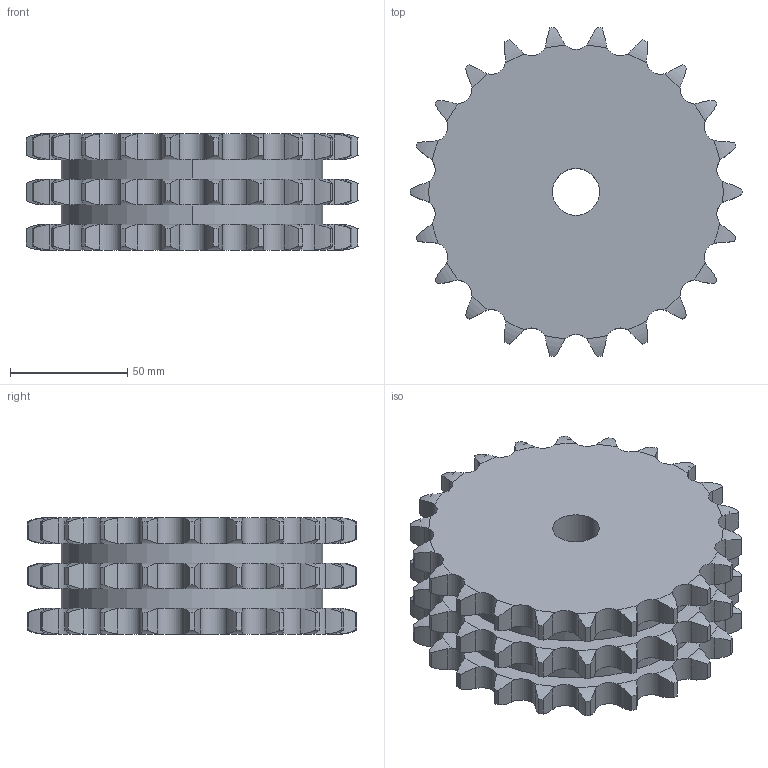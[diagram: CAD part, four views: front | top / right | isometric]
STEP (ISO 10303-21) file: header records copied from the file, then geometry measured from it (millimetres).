
FILE_DESCRIPTION((''),'2;1');
FILE_NAME('500-403-0022_PRT','2021-02-12T',('Brieden'),('Brieden'),'PRO/ENGINEER BY PARAMETRIC TECHNOLOGY CORPORATION, 2010160','PRO/ENGINEER BY PARAMETRIC TECHNOLOGY CORPORATION, 2010160','');
FILE_SCHEMA(('AUTOMOTIVE_DESIGN { 1 0 10303 214 1 1 1 1 }'));
Length unit declared in the file: millimetre
Products named in the file (1): 500-403-0022_PRT
Bounding box: 141.8 x 140.63 x 49.8 mm (x, y, z)
Volume: 581665.2 mm3; surface area: 67916.1 mm2
Topology: 1 solids, 1 shells, 408 faces, 1206 edges, 804 vertices
Faces by surface type: cylinder 270, torus 132, plane 6
Entity records: 19557 total; most frequent: CARTESIAN_POINT 5604, ORIENTED_EDGE 2412, DIRECTION 1902, PRESENTATION_STYLE_ASSIGNMENT 1207, STYLED_ITEM 1207, CURVE_STYLE 1206, EDGE_CURVE 1206, AXIS2_PLACEMENT_3D 816
